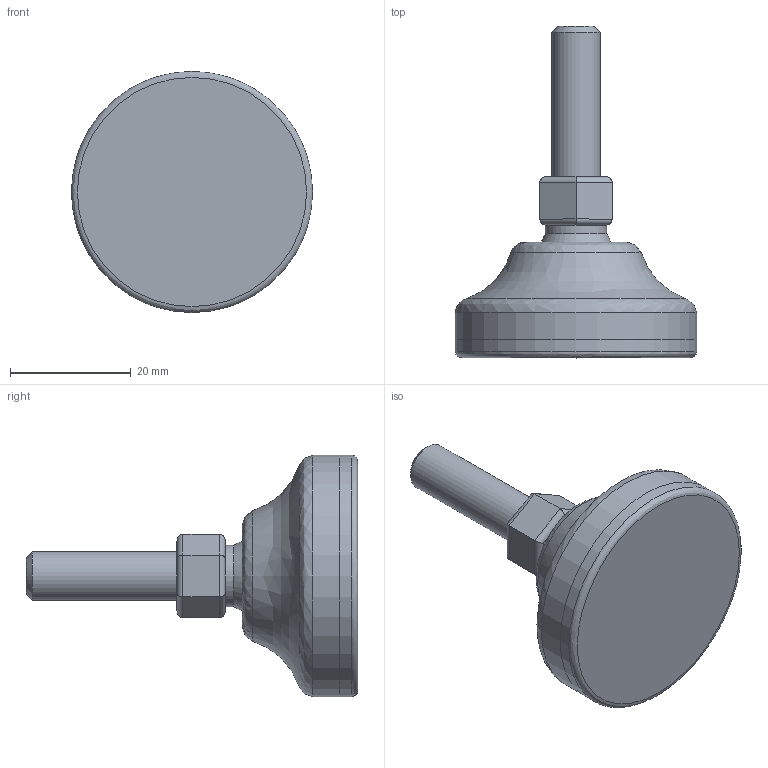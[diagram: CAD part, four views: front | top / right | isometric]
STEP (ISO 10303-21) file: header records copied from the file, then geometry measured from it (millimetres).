
FILE_DESCRIPTION(('STEP AP203'),'2;1');
FILE_NAME('10001.stp','2015-03-30T11:47:34',(''),(''),'2008.1.107','THINKDESIGN','');
FILE_SCHEMA(('CONFIG_CONTROL_DESIGN'));
Length unit declared in the file: millimetre
Bounding box: 40 x 55 x 40 mm (x, y, z)
Volume: 19525.8 mm3; surface area: 7963.4 mm2
Topology: 5 solids, 5 shells, 38 faces, 80 edges, 52 vertices
Faces by surface type: plane 16, cylinder 16, bspline 6
Full cylindrical faces by diameter (mm): 8 x1, 10.163 x1, 39.997 x1, 40 x1
Entity records: 1567 total; most frequent: CARTESIAN_POINT 673, DIRECTION 165, ORIENTED_EDGE 160, EDGE_CURVE 80, AXIS2_PLACEMENT_3D 65, VERTEX_POINT 52, EDGE_LOOP 38, FACE_OUTER_BOUND 38
